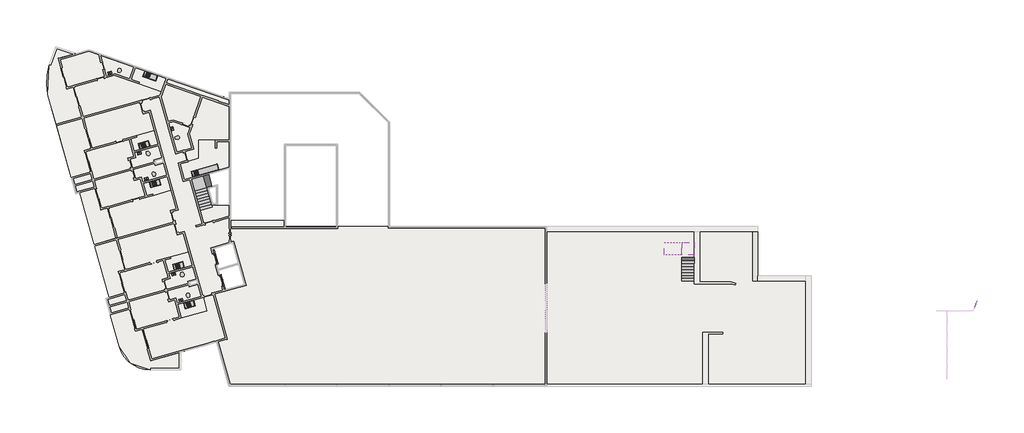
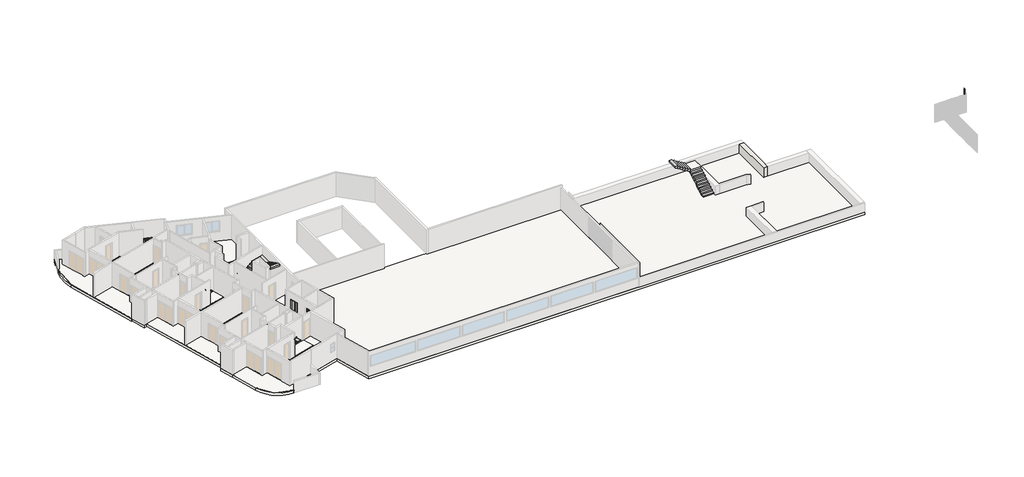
# One storey, part 9 of 9: 19 slabs, 18 flow terminals, 8 members, 8 proxies, 3 stair flights, 1 wall.
"""IFC4 building model written with IfcOpenShell, lengths in millimetres."""

from ifc_helpers import new_model, si_unit, point, frame, frame_2d, origin, place, context, project, spatial, polyline, circle_curve, trimmed, segment, composite_curve, outline, extrude, faceted_brep, transform, mapped, element, save
from components import specialty_equipment_6c35da8b, specialty_equipment_77dfa124, rf_bancada_cozinha_rf_bancada_cozinha_340fef9f, rf_bancada_cozinha_rf_bancada_cozinha_cfb88ba1, rf_bancada_cozinha_rf_bancada_cozinha_2f873929, rf_bancada_cozinha_rf_bancada_cozinha_798ceddf, flow_terminal_cab7bae2, flow_terminal_3fb7dc42, flow_terminal_e42b9071, flow_terminal_c6e042c4, ap_01_creme_cr37_13e02e03, ap_01_creme_cr37_5ce6e54d, montante_retangular_30mm_quadrado_54fe6a28, montante_retangular_30mm_quadrado_caeeb86b

model = new_model("IFC4")

# Units and contexts
model_context = context("Model", 3, world=origin())
ifc_project = project(units=[si_unit("LENGTHUNIT", "METRE", prefix="MILLI")], contexts=[model_context])

# Site, building, storey
site = spatial("IfcSite", under=ifc_project)
building = spatial("IfcBuilding", under=site)
storey = spatial("IfcBuildingStorey", under=building, Name="Garagem 1", Elevation=47850.0)

# Proxies
placement = place(None, origin())
specialty_equipment_shape = specialty_equipment_6c35da8b(model_context)
element("IfcBuildingElementProxy", 1, Name="Porta do elevador : Porta do elevador", ObjectType="Porta do elevador : Porta do elevador", at=placement, inside=storey, context=model_context, shape_type="MappedRepresentation", body=[
    mapped(specialty_equipment_shape, transform((-76594.4337486, 15747.4543727, 47850.0), x_axis=(0.27176796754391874, -0.9623628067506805, 0.0), y_axis=(0.9623628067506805, 0.27176796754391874, 0.0), z_axis=(0.0, 0.0, 1.0))),
])
specialty_equipment_2_shape = specialty_equipment_77dfa124(model_context)
element("IfcBuildingElementProxy", 2, Name="Porta do elevador : Porta do elevador", ObjectType="Porta do elevador : Porta do elevador", at=placement, inside=storey, context=model_context, shape_type="MappedRepresentation", body=[
    mapped(specialty_equipment_2_shape, transform((-75942.1906265, 13437.7836365, 47850.0), x_axis=(-0.27176796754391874, 0.9623628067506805, 0.0), y_axis=(-0.9623628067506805, -0.27176796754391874, 0.0), z_axis=(0.0, 0.0, 1.0))),
])
rf_bancada_cozinha_rf_bancada_cozinha_shape = rf_bancada_cozinha_rf_bancada_cozinha_340fef9f(model_context)
element("IfcBuildingElementProxy", 3, Name="RF_Bancada Cozinha : RF_Bancada Cozinha", ObjectType="RF_Bancada Cozinha : RF_Bancada Cozinha", at=placement, inside=storey, context=model_context, shape_type="MappedRepresentation", body=[
    mapped(rf_bancada_cozinha_rf_bancada_cozinha_shape, transform((-82760.548019, 26451.5820971, 48600.0), x_axis=(-0.9623628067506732, -0.27176796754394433, 0.0), y_axis=(0.27176796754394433, -0.9623628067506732, 0.0), z_axis=(0.0, 0.0, 1.0))),
])
element("IfcBuildingElementProxy", 4, Name="RF_Bancada Cozinha : RF_Bancada Cozinha", ObjectType="RF_Bancada Cozinha : RF_Bancada Cozinha", at=placement, inside=storey, context=model_context, shape_type="MappedRepresentation", body=[
    mapped(rf_bancada_cozinha_rf_bancada_cozinha_shape, transform((-79472.1556117, 14806.9921354, 48600.0), x_axis=(-0.9623628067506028, -0.2717679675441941, 0.0), y_axis=(0.2717679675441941, -0.9623628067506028, 0.0), z_axis=(0.0, 0.0, 1.0))),
])
rf_bancada_cozinha_rf_bancada_cozinha_2_shape = rf_bancada_cozinha_rf_bancada_cozinha_cfb88ba1(model_context)
element("IfcBuildingElementProxy", 5, Name="RF_Bancada Cozinha : RF_Bancada Cozinha", ObjectType="RF_Bancada Cozinha : RF_Bancada Cozinha", at=placement, inside=storey, context=model_context, shape_type="MappedRepresentation", body=[
    mapped(rf_bancada_cozinha_rf_bancada_cozinha_2_shape, transform((-81877.3021245, 23323.9029751, 48600.0), x_axis=(-0.9623628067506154, -0.27176796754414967, 0.0), y_axis=(0.27176796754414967, -0.9623628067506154, 0.0), z_axis=(0.0, 0.0, 1.0))),
])
element("IfcBuildingElementProxy", 6, Name="RF_Bancada Cozinha : RF_Bancada Cozinha", ObjectType="RF_Bancada Cozinha : RF_Bancada Cozinha", at=placement, inside=storey, context=model_context, shape_type="MappedRepresentation", body=[
    mapped(rf_bancada_cozinha_rf_bancada_cozinha_2_shape, transform((-78588.9097172, 11679.3130134, 48600.0), x_axis=(-0.9623628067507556, -0.27176796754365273, 0.0), y_axis=(0.27176796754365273, -0.9623628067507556, 0.0), z_axis=(0.0, 0.0, 1.0))),
])
rf_bancada_cozinha_rf_bancada_cozinha_3_shape = rf_bancada_cozinha_rf_bancada_cozinha_2f873929(model_context)
element("IfcBuildingElementProxy", 7, Name="RF_Bancada Cozinha : RF_Bancada Cozinha", ObjectType="RF_Bancada Cozinha : RF_Bancada Cozinha", at=placement, inside=storey, context=model_context, shape_type="MappedRepresentation", body=[
    mapped(rf_bancada_cozinha_rf_bancada_cozinha_3_shape, transform((-82030.0326121, 33293.9830661, 48600.0), x_axis=(-0.9449109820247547, 0.32732741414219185, 0.0), y_axis=(-0.32732741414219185, -0.9449109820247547, 0.0), z_axis=(0.0, 0.0, 1.0))),
])
rf_bancada_cozinha_rf_bancada_cozinha_4_shape = rf_bancada_cozinha_rf_bancada_cozinha_798ceddf(model_context)
element("IfcBuildingElementProxy", 8, Name="RF_Bancada Cozinha : RF_Bancada Cozinha", ObjectType="RF_Bancada Cozinha : RF_Bancada Cozinha", at=placement, inside=storey, context=model_context, shape_type="MappedRepresentation", body=[
    mapped(rf_bancada_cozinha_rf_bancada_cozinha_4_shape, transform((-76157.6622331, 24197.9763092, 48600.0), x_axis=(-0.9623628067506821, -0.27176796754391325, 0.0), y_axis=(0.27176796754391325, -0.9623628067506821, 0.0), z_axis=(0.0, 0.0, 1.0))),
])

# Flow terminals
flow_terminal_shape = flow_terminal_cab7bae2(model_context)
element("IfcFlowTerminal", 9, ObjectType="RF_Pias : Pia da Bancada", at=placement, inside=storey, context=model_context, shape_type="MappedRepresentation", body=[
    mapped(flow_terminal_shape, transform((-83380.5102831, 26570.4992214, 47702.9), x_axis=(-0.9623628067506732, -0.27176796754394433, 0.0), y_axis=(0.27176796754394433, -0.9623628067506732, 0.0), z_axis=(0.0, 0.0, 1.0))),
])
element("IfcFlowTerminal", 10, ObjectType="RF_Pias : Pia da Bancada", at=placement, inside=storey, context=model_context, shape_type="MappedRepresentation", body=[
    mapped(flow_terminal_shape, transform((-80092.1178758, 14925.9092597, 47702.9), x_axis=(-0.9623628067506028, -0.2717679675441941, 0.0), y_axis=(0.2717679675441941, -0.9623628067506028, 0.0), z_axis=(0.0, 0.0, 1.0))),
])
element("IfcFlowTerminal", 11, ObjectType="RF_Pias : Pia da Bancada", at=placement, inside=storey, context=model_context, shape_type="MappedRepresentation", body=[
    mapped(flow_terminal_shape, transform((-78306.8185143, 23885.0542694, 47702.9), x_axis=(-0.9623628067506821, -0.27176796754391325, 0.0), y_axis=(0.27176796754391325, -0.9623628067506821, 0.0), z_axis=(0.0, 0.0, 1.0))),
])
flow_terminal_2_shape = flow_terminal_3fb7dc42(model_context)
element("IfcFlowTerminal", 12, ObjectType="Deca_Cuba de Apoio Retangular_L7300 : L.7300.17_Branco Gelo GE17", at=placement, inside=storey, context=model_context, shape_type="MappedRepresentation", body=[
    mapped(flow_terminal_2_shape, transform((-83090.0822283, 23308.7374016, 48600.0), x_axis=(-0.9623628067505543, -0.2717679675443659, 0.0), y_axis=(0.2717679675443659, -0.9623628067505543, 0.0), z_axis=(0.0, 0.0, 1.0))),
])
element("IfcFlowTerminal", 13, ObjectType="Deca_Cuba de Apoio Retangular_L7300 : L.7300.17_Branco Gelo GE17", at=placement, inside=storey, context=model_context, shape_type="MappedRepresentation", body=[
    mapped(flow_terminal_2_shape, transform((-79801.689821, 11664.1474399, 48600.0), x_axis=(-0.9623628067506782, -0.2717679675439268, 0.0), y_axis=(0.2717679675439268, -0.9623628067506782, 0.0), z_axis=(0.0, 0.0, 1.0))),
])
element("IfcFlowTerminal", 14, ObjectType="Deca_Cuba de Apoio Retangular_L7300 : L.7300.17_Branco Gelo GE17", at=placement, inside=storey, context=model_context, shape_type="MappedRepresentation", body=[
    mapped(flow_terminal_2_shape, transform((-80677.0991462, 28154.8020678, 48600.0), x_axis=(-0.2717679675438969, 0.9623628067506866, 0.0), y_axis=(-0.9623628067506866, -0.2717679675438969, 0.0), z_axis=(0.0, 0.0, 1.0))),
])
element("IfcFlowTerminal", 15, ObjectType="Deca_Cuba de Apoio Retangular_L7300 : L.7300.17_Branco Gelo GE17", at=placement, inside=storey, context=model_context, shape_type="MappedRepresentation", body=[
    mapped(flow_terminal_2_shape, transform((-86597.4204814, 33488.7004496, 48600.0), x_axis=(-0.9623628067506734, -0.27176796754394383, 0.0), y_axis=(0.27176796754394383, -0.9623628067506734, 0.0), z_axis=(0.0, 0.0, 1.0))),
])
flow_terminal_3_shape = flow_terminal_e42b9071(model_context)
element("IfcFlowTerminal", 16, ObjectType="Deca_Cuba de Apoio Retangular_L7300 : L.7300.17_Branco Gelo GE17", at=placement, inside=storey, context=model_context, shape_type="MappedRepresentation", body=[
    mapped(flow_terminal_3_shape, transform((-83802.1143033, 25830.1279553, 48600.0), x_axis=(-0.9623628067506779, -0.2717679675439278, 0.0), y_axis=(0.2717679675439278, -0.9623628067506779, 0.0), z_axis=(0.0, 0.0, 1.0))),
])
element("IfcFlowTerminal", 17, ObjectType="Deca_Cuba de Apoio Retangular_L7300 : L.7300.17_Branco Gelo GE17", at=placement, inside=storey, context=model_context, shape_type="MappedRepresentation", body=[
    mapped(flow_terminal_3_shape, transform((-80513.721896, 14185.5379936, 48600.0), x_axis=(-0.962362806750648, -0.27176796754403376, 0.0), y_axis=(0.27176796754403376, -0.962362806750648, 0.0), z_axis=(0.0, 0.0, 1.0))),
])
flow_terminal_4_shape = flow_terminal_c6e042c4(model_context)
element("IfcFlowTerminal", 18, ObjectType="RF_Pias : Pia da Bancada", at=placement, inside=storey, context=model_context, shape_type="MappedRepresentation", body=[
    mapped(flow_terminal_4_shape, transform((-82343.483233, 22898.2626745, 47702.9), x_axis=(-0.9623628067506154, -0.27176796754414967, 0.0), y_axis=(0.27176796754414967, -0.9623628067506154, 0.0), z_axis=(0.0, 0.0, 1.0))),
])
element("IfcFlowTerminal", 19, ObjectType="RF_Pias : Pia da Bancada", at=placement, inside=storey, context=model_context, shape_type="MappedRepresentation", body=[
    mapped(flow_terminal_4_shape, transform((-79055.0908257, 11253.6727129, 47702.9), x_axis=(-0.9623628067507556, -0.27176796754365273, 0.0), y_axis=(0.27176796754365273, -0.9623628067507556, 0.0), z_axis=(0.0, 0.0, 1.0))),
])
element("IfcFlowTerminal", 20, ObjectType="RF_Pias : Pia da Bancada", at=placement, inside=storey, context=model_context, shape_type="MappedRepresentation", body=[
    mapped(flow_terminal_4_shape, transform((-82939.3392028, 33309.5545572, 47702.9), x_axis=(-0.9449109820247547, 0.32732741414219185, 0.0), y_axis=(-0.32732741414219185, -0.9449109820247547, 0.0), z_axis=(0.0, 0.0, 1.0))),
])
ap_01_creme_cr37_shape = ap_01_creme_cr37_13e02e03(model_context)
element("IfcFlowTerminal", 21, ObjectType="Deca_Shared_Assento_P.900 : AP.01_Creme CR37", at=placement, inside=storey, context=model_context, shape_type="MappedRepresentation", body=[
    mapped(ap_01_creme_cr37_shape, transform((-83017.5301151, 25983.4740486, 48237.8723674), x_axis=(0.9623628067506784, 0.2717679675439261, 0.0), y_axis=(0.0, 0.0, 1.0), z_axis=(0.2717679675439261, -0.9623628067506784, 0.0))),
])
element("IfcFlowTerminal", 22, ObjectType="Deca_Shared_Assento_P.900 : AP.01_Creme CR37", at=placement, inside=storey, context=model_context, shape_type="MappedRepresentation", body=[
    mapped(ap_01_creme_cr37_shape, transform((-79729.1377078, 14338.8840869, 48237.8723674), x_axis=(0.962362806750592, 0.2717679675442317, 0.0), y_axis=(0.0, 0.0, 1.0), z_axis=(0.2717679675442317, -0.962362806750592, 0.0))),
])
element("IfcFlowTerminal", 23, ObjectType="Deca_Shared_Assento_P.900 : AP.01_Creme CR37", at=placement, inside=storey, context=model_context, shape_type="MappedRepresentation", body=[
    mapped(ap_01_creme_cr37_shape, transform((-80349.5164684, 27236.3600819, 48237.8723674), x_axis=(-0.271767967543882, 0.9623628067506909, 0.0), y_axis=(0.0, 0.0, 1.0), z_axis=(0.9623628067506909, 0.271767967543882, 0.0))),
])
element("IfcFlowTerminal", 24, ObjectType="Deca_Shared_Assento_P.900 : AP.01_Creme CR37", at=placement, inside=storey, context=model_context, shape_type="MappedRepresentation", body=[
    mapped(ap_01_creme_cr37_shape, transform((-85777.8760768, 33566.4131555, 48237.8723674), x_axis=(-0.9449109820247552, 0.3273274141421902, 0.0), y_axis=(0.0, 0.0, 1.0000000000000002), z_axis=(0.3273274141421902, 0.9449109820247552, 0.0))),
])
ap_01_creme_cr37_2_shape = ap_01_creme_cr37_5ce6e54d(model_context)
element("IfcFlowTerminal", 25, ObjectType="Deca_Shared_Assento_P.900 : AP.01_Creme CR37", at=placement, inside=storey, context=model_context, shape_type="MappedRepresentation", body=[
    mapped(ap_01_creme_cr37_2_shape, transform((-82341.1813229, 23588.4422577, 48237.8723674), x_axis=(0.9623628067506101, 0.27176796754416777, 0.0), y_axis=(0.0, 0.0, -1.0), z_axis=(-0.27176796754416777, 0.9623628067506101, 0.0))),
])
element("IfcFlowTerminal", 26, ObjectType="Deca_Shared_Assento_P.900 : AP.01_Creme CR37", at=placement, inside=storey, context=model_context, shape_type="MappedRepresentation", body=[
    mapped(ap_01_creme_cr37_2_shape, transform((-79052.7889156, 11943.852296, 48237.8723674), x_axis=(0.9623628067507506, 0.2717679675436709, 0.0), y_axis=(0.0, 0.0, -1.0000000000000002), z_axis=(-0.2717679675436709, 0.9623628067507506, 0.0))),
])

# Members
montante_retangular_30mm_quadrado_shape = montante_retangular_30mm_quadrado_54fe6a28(model_context)
element("IfcMember", 27, ObjectType="Montante retangular : 30mm Quadrado", at=placement, inside=storey, context=model_context, shape_type="MappedRepresentation", body=[
    mapped(montante_retangular_30mm_quadrado_shape, transform((-3369.0274651, 11521.087895, 50000.0), x_axis=(-0.33339028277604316, -0.942788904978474, 0.0), y_axis=(-0.942788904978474, 0.33339028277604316, 0.0), z_axis=(0.0, 0.0, -1.0))),
])
element("IfcMember", 28, ObjectType="Montante retangular : 30mm Quadrado", at=placement, inside=storey, context=model_context, shape_type="MappedRepresentation", body=[
    mapped(montante_retangular_30mm_quadrado_shape, transform((-3431.8820215, 11343.3425272, 50000.0), x_axis=(-0.33339028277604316, -0.942788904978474, 0.0), y_axis=(-0.942788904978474, 0.33339028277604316, 0.0), z_axis=(0.0, 0.0, -1.0))),
])
element("IfcMember", 29, ObjectType="Montante retangular : 30mm Quadrado", at=placement, inside=storey, context=model_context, shape_type="MappedRepresentation", body=[
    mapped(montante_retangular_30mm_quadrado_shape, transform((-3494.736578, 11165.5971594, 50000.0), x_axis=(-0.33339028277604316, -0.942788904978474, 0.0), y_axis=(-0.942788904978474, 0.33339028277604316, 0.0), z_axis=(0.0, 0.0, -1.0))),
])
element("IfcMember", 30, ObjectType="Montante retangular : 30mm Quadrado", at=placement, inside=storey, context=model_context, shape_type="MappedRepresentation", body=[
    mapped(montante_retangular_30mm_quadrado_shape, transform((-3369.0274651, 11521.087895, 51050.0), x_axis=(-0.33339028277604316, -0.942788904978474, 0.0), y_axis=(-0.942788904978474, 0.33339028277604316, 0.0), z_axis=(0.0, 0.0, -1.0))),
])
element("IfcMember", 31, ObjectType="Montante retangular : 30mm Quadrado", at=placement, inside=storey, context=model_context, shape_type="MappedRepresentation", body=[
    mapped(montante_retangular_30mm_quadrado_shape, transform((-3431.8820215, 11343.3425272, 51050.0), x_axis=(-0.33339028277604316, -0.942788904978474, 0.0), y_axis=(-0.942788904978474, 0.33339028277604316, 0.0), z_axis=(0.0, 0.0, -1.0))),
])
element("IfcMember", 32, ObjectType="Montante retangular : 30mm Quadrado", at=placement, inside=storey, context=model_context, shape_type="MappedRepresentation", body=[
    mapped(montante_retangular_30mm_quadrado_shape, transform((-3494.736578, 11165.5971594, 51050.0), x_axis=(-0.33339028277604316, -0.942788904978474, 0.0), y_axis=(-0.942788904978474, 0.33339028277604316, 0.0), z_axis=(0.0, 0.0, -1.0))),
])
montante_retangular_30mm_quadrado_2_shape = montante_retangular_30mm_quadrado_caeeb86b(model_context)
element("IfcMember", 33, ObjectType="Montante retangular : 30mm Quadrado", at=placement, inside=storey, context=model_context, shape_type="MappedRepresentation", body=[
    mapped(montante_retangular_30mm_quadrado_2_shape, transform((-3489.7357237, 11179.738993, 51050.0), x_axis=(0.0, 0.0, 1.0), y_axis=(-0.9427889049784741, 0.33339028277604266, 0.0), z_axis=(-0.33339028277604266, -0.9427889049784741, 0.0))),
])
element("IfcMember", 34, ObjectType="Montante retangular : 30mm Quadrado", at=placement, inside=storey, context=model_context, shape_type="MappedRepresentation", body=[
    mapped(montante_retangular_30mm_quadrado_2_shape, transform((-3552.5902802, 11001.9936251, 51050.0), x_axis=(0.0, 0.0, 1.0), y_axis=(-0.9427889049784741, 0.33339028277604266, 0.0), z_axis=(-0.33339028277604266, -0.9427889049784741, 0.0))),
])

# Slabs
element("IfcSlab", 35, ObjectType="TZ_Piso de Áreas Molhadas", at=placement, inside=storey, context=model_context, shape_type="SweptSolid", body=[
    extrude(outline(composite_curve([segment(polyline([(-90765.4571774, 31984.341749), (-90143.7425806, 32159.9118263), (-89328.438678, 29272.823406), (-91766.0080564, 28584.4621444), (-92573.2320087, 31442.9384962)]), True, "CONTINUOUS"), segment(trimmed(circle_curve(frame_2d((-87414.5556743, 32622.5665107)), 5291.829908), [point((-92573.2320087, 31442.9384962))], [point((-92422.0860726, 34333.7366032))], False, "CARTESIAN"), True, "CONTINUOUS"), segment(polyline([(-92422.0860726, 34333.7366032), (-92280.2794148, 34284.6132387), (-91729.7010481, 35873.9929322), (-90151.0501028, 35327.1311202), (-91594.3494784, 34919.5483093), (-90765.4571774, 31984.341749)]), True, "CONTINUOUS")], self_intersect=False)), frame((0.0, 0.0, 47850.0), z_axis=(0.0, 0.0, 1.0), x_axis=(1.0, 0.0, 0.0)), (0.0, 0.0, 1.0), 20.0),
])
element("IfcSlab", 36, ObjectType="TZ_Piso de Áreas Molhadas", at=placement, inside=storey, context=model_context, shape_type="SweptSolid", body=[
    extrude(outline(polyline([(-88472.3695802, 26241.3805647), (-89094.084177, 26065.8104874), (-88509.7830468, 23996.7304529), (-90325.6378284, 23483.9392686), (-91725.2428613, 28440.1077234), (-89287.6734828, 29128.468985), (-88472.3695802, 26241.3805647)])), frame((0.0, 0.0, 47850.0), z_axis=(0.0, 0.0, 1.0), x_axis=(1.0, 0.0, 0.0)), (0.0, 0.0, 1.0), 20.0),
])
element("IfcSlab", 37, ObjectType="TZ_Piso de Áreas Molhadas", at=placement, inside=storey, context=model_context, shape_type="SweptSolid", body=[
    extrude(outline(polyline([(-86855.3501733, 20515.3218645), (-86040.0462707, 17628.2334443), (-88109.1263052, 17043.9323141), (-89508.731338, 22000.1007688), (-88061.3659003, 22408.8318218), (-87477.0647701, 20339.7517872), (-86855.3501733, 20515.3218645)])), frame((0.0, 0.0, 47850.0), z_axis=(0.0, 0.0, 1.0), x_axis=(1.0, 0.0, 0.0)), (0.0, 0.0, 1.0), 20.0),
])
element("IfcSlab", 38, ObjectType="TZ_Piso de Áreas Molhadas", at=placement, inside=storey, context=model_context, shape_type="SweptSolid", body=[
    extrude(outline(polyline([(-78926.5637691, 28284.9851582), (-79146.9727346, 27648.7205404), (-78771.1333302, 26317.8283554), (-80214.6775403, 25910.176404), (-81004.3851492, 28706.6252933), (-80530.2499593, 28840.5194505), (-78926.5637691, 28284.9851582)])), frame((0.0, 0.0, 47850.0), z_axis=(0.0, 0.0, 1.0), x_axis=(1.0, 0.0, 0.0)), (0.0, 0.0, 1.0), 20.0),
])
element("IfcSlab", 39, ObjectType="TZ_Piso de Áreas Molhadas", at=placement, inside=storey, context=model_context, shape_type="SweptSolid", body=[
    extrude(outline(polyline([(-78070.9150345, 27060.8243598), (-76493.6479314, 27060.8243598), (-76493.6479314, 26310.8243598), (-76343.6479314, 26310.8243598), (-76343.6479314, 26910.8243598), (-75147.8282189, 26910.8243598), (-75147.8282189, 24483.4871675), (-79467.3156296, 23263.6786855), (-79888.5559793, 24755.3410359), (-79127.7601479, 24970.1871785), (-79141.3485461, 25018.3053183), (-78070.9150345, 25320.5920836), (-78070.9150345, 27060.8243598)])), frame((0.0, 0.0, 47850.0), z_axis=(0.0, 0.0, 1.0), x_axis=(1.0, 0.0, 0.0)), (0.0, 0.0, 1.0), 20.0),
])
element("IfcSlab", 40, ObjectType="TZ_Piso de Áreas Molhadas", at=placement, inside=storey, context=model_context, shape_type="SweptSolid", body=[
    extrude(outline(polyline([(-84719.4810559, 32955.6762822), (-86137.8721095, 33447.0223292), (-86956.7711455, 33215.7680402), (-87515.4733556, 35194.1992432), (-84326.6881589, 34089.5694606), (-84719.4810559, 32955.6762822)])), frame((0.0, 0.0, 47850.0), z_axis=(0.0, 0.0, 1.0), x_axis=(1.0, 0.0, 0.0)), (0.0, 0.0, 1.0), 20.0),
])
element("IfcSlab", 41, ObjectType="TZ_Piso de Áreas Molhadas", at=placement, inside=storey, context=model_context, shape_type="SweptSolid", body=[
    extrude(outline(polyline([(-84577.7444086, 32906.57717), (-84184.9515116, 34040.4703485), (-81226.8582774, 33015.7547641), (-81668.7502865, 31740.1249383), (-83870.9147351, 32502.9785914), (-83821.815623, 32644.7152387), (-84577.7444086, 32906.57717)])), frame((0.0, 0.0, 47850.0), z_axis=(0.0, 0.0, 1.0), x_axis=(1.0, 0.0, 0.0)), (0.0, 0.0, 1.0), 20.0),
])
element("IfcSlab", 42, ObjectType="TZ_Piso de Áreas Molhadas", at=placement, inside=storey, context=model_context, shape_type="SweptSolid", body=[
    extrude(outline(polyline([(-81949.8925784, 26524.6420501), (-81623.7710174, 25369.806682), (-82432.1557751, 25141.5215893), (-82377.8021816, 24949.0490279), (-84456.5058441, 24362.030218), (-84701.0970149, 25228.1567441), (-84123.6793309, 25391.2175246), (-84259.5633146, 25872.398928), (-81949.8925784, 26524.6420501)])), frame((0.0, 0.0, 47850.0), z_axis=(0.0, 0.0, 1.0), x_axis=(1.0, 0.0, 0.0)), (0.0, 0.0, 1.0), 20.0),
])
element("IfcSlab", 43, ObjectType="TZ_Piso de Áreas Molhadas", at=placement, inside=storey, context=model_context, shape_type="SweptSolid", body=[
    extrude(outline(polyline([(-84089.7975819, 27479.0039186), (-82357.5445298, 27968.1862602), (-81990.6577736, 26668.9964711), (-84300.3285098, 26016.753349), (-84626.4500708, 27171.5887171), (-84049.0323868, 27334.6494976), (-84089.7975819, 27479.0039186)])), frame((0.0, 0.0, 47850.0), z_axis=(0.0, 0.0, 1.0), x_axis=(1.0, 0.0, 0.0)), (0.0, 0.0, 1.0), 20.0),
])
element("IfcSlab", 44, ObjectType="TZ_Piso de Áreas Molhadas", at=placement, inside=storey, context=model_context, shape_type="SweptSolid", body=[
    extrude(outline(polyline([(-84171.1494782, 23351.5492709), (-84415.740649, 24217.675797), (-82337.0369864, 24804.6946069), (-82282.6833929, 24612.2220455), (-81474.2986352, 24840.5071383), (-81148.1770742, 23685.6717702), (-83457.8478104, 23033.4286481), (-83593.7317942, 23514.6100514), (-84171.1494782, 23351.5492709)])), frame((0.0, 0.0, 47850.0), z_axis=(0.0, 0.0, 1.0), x_axis=(1.0, 0.0, 0.0)), (0.0, 0.0, 1.0), 20.0),
])
element("IfcSlab", 45, ObjectType="TZ_Piso de Áreas Molhadas", at=placement, inside=storey, context=model_context, shape_type="SweptSolid", body=[
    extrude(outline(composite_curve([segment(polyline([(-79945.4990038, 5119.4122055), (-82713.5540687, 5119.4122055), (-82713.5540687, 4969.4122055), (-82751.3896972, 4969.4122055)]), True, "CONTINUOUS"), segment(trimmed(circle_curve(frame_2d((-82751.3896972, 8069.4122055)), 3100.0), [point((-82751.3896972, 4969.4122055))], [point((-85734.7143981, 7226.9315061))], False, "CARTESIAN"), True, "CONTINUOUS"), segment(polyline([(-85734.7143981, 7226.9315061), (-86588.8282733, 10251.4506708), (-84772.9735093, 10764.2419177), (-84188.6722855, 8695.1618243), (-83566.957766, 8870.7319029), (-82710.8885369, 5839.2889958), (-79945.4990038, 6620.2256515), (-79945.4990038, 5119.4122055)]), True, "CONTINUOUS")], self_intersect=False)), frame((0.0, 0.0, 47850.0), z_axis=(0.0, 0.0, 1.0), x_axis=(1.0, 0.0, 0.0)), (0.0, 0.0, 1.0), 20.0),
])
element("IfcSlab", 46, ObjectType="TZ_Piso de Áreas Molhadas", at=placement, inside=storey, context=model_context, shape_type="SweptSolid", body=[
    extrude(outline(polyline([(-78185.906228, 13195.9171766), (-77859.7846669, 12041.0818085), (-80169.4554031, 11388.8386864), (-80305.3393869, 11870.0200898), (-80882.7570709, 11706.9593092), (-81127.3482417, 12573.0858353), (-79048.6445791, 13160.1046452), (-78994.2909856, 12967.6320839), (-78185.906228, 13195.9171766)])), frame((0.0, 0.0, 47850.0), z_axis=(0.0, 0.0, 1.0), x_axis=(1.0, 0.0, 0.0)), (0.0, 0.0, 1.0), 20.0),
])
element("IfcSlab", 47, ObjectType="TZ_Piso de Áreas Molhadas", at=placement, inside=storey, context=model_context, shape_type="SweptSolid", body=[
    extrude(outline(polyline([(-77307.7782946, 10638.3027935), (-79761.8034518, 9945.2944763), (-80128.690208, 11244.4842654), (-77674.6650508, 11937.4925826), (-77307.7782946, 10638.3027935)])), frame((0.0, 0.0, 47850.0), z_axis=(0.0, 0.0, 1.0), x_axis=(1.0, 0.0, 0.0)), (0.0, 0.0, 1.0), 20.0),
])
element("IfcSlab", 48, ObjectType="TZ_Piso de Áreas Molhadas", at=placement, inside=storey, context=model_context, shape_type="SweptSolid", body=[
    extrude(outline(polyline([(-81107.9410005, 23543.1910314), (-80740.5251229, 22242.1275601), (-82472.778175, 21752.9452185), (-82513.5433702, 21897.2996395), (-83090.9610542, 21734.238859), (-83418.0192411, 22888.8089065), (-81107.9410005, 23543.1910314)])), frame((0.0, 0.0, 47850.0), z_axis=(0.0, 0.0, 1.0), x_axis=(1.0, 0.0, 0.0)), (0.0, 0.0, 1.0), 20.0),
])
element("IfcSlab", 49, ObjectType="TZ_Piso de Áreas Molhadas", at=placement, inside=storey, context=model_context, shape_type="SweptSolid", body=[
    extrude(outline(polyline([(-85183.9771729, 14596.790603), (-85805.6917697, 14421.2205257), (-85221.3906395, 12352.1404912), (-86668.7560772, 11943.4094383), (-88068.36111, 16899.5778931), (-85999.2810755, 17483.8790233), (-85183.9771729, 14596.790603)])), frame((0.0, 0.0, 47850.0), z_axis=(0.0, 0.0, 1.0), x_axis=(1.0, 0.0, 0.0)), (0.0, 0.0, 1.0), 20.0),
])
element("IfcSlab", 50, ObjectType="TZ_Piso de Áreas Molhadas", at=placement, inside=storey, context=model_context, shape_type="SweptSolid", body=[
    extrude(outline(polyline([(-81412.7046076, 13583.5667824), (-80835.2869236, 13746.6275629), (-80971.1709074, 14227.8089663), (-78661.5001712, 14880.0520884), (-78335.3786101, 13725.2167203), (-79143.7633678, 13496.9316276), (-79089.4097743, 13304.4590662), (-81168.1134368, 12717.4402563), (-81412.7046076, 13583.5667824)])), frame((0.0, 0.0, 47850.0), z_axis=(0.0, 0.0, 1.0), x_axis=(1.0, 0.0, 0.0)), (0.0, 0.0, 1.0), 20.0),
])
element("IfcSlab", 51, ObjectType="TZ_Piso de Áreas Molhadas", at=placement, inside=storey, context=model_context, shape_type="SweptSolid", body=[
    extrude(outline(polyline([(-78701.7362448, 15022.5328272), (-81012.8731576, 14371.8995868), (-81338.0576635, 15526.9987554), (-80760.6399795, 15690.059536), (-80801.4051746, 15834.413957), (-79069.1521225, 16323.5962985), (-78701.7362448, 15022.5328272)])), frame((0.0, 0.0, 47850.0), z_axis=(0.0, 0.0, 1.0), x_axis=(1.0, 0.0, 0.0)), (0.0, 0.0, 1.0), 20.0),
])
element("IfcSlab", 52, ObjectType="Espessura de 300 mm", at=placement, inside=storey, context=model_context, shape_type="Brep", body=[
    faceted_brep([(-31675.8701557, 16029.7640731, 49555.8823529), (-30475.8701557, 16029.7640731, 49555.8823529), (-30475.8701557, 16105.6519204, 49555.8823529), (-30475.8701557, 17229.7640731, 49555.8823529), (-31471.7580031, 17229.7640731, 49555.8823529), (-31675.8701557, 17229.7640731, 49555.8823529), (-31675.8701557, 17229.7640731, 49380.2363955), (-31675.8701557, 16105.6519204, 49380.2363955), (-31675.8701557, 16105.6519204, 49255.8823529), (-31675.8701557, 16029.7640731, 49209.6481602), (-31675.8701557, 16029.7640731, 49380.2363955), (-31675.8701557, 16029.7640731, 49385.2941176), (-30475.8701557, 16029.7640731, 49385.2941176), (-30475.8701557, 16029.7640731, 49209.6481602), (-30475.8701557, 16105.6519204, 49255.8823529), (-30475.8701557, 17229.7640731, 49255.8823529), (-31471.7580031, 16105.6519204, 49255.8823529), (-31471.7580031, 17229.7640731, 49255.8823529)], [[[0, 1, 2, 3, 4, 5]], [[0, 5, 6, 7, 8, 9, 10, 11]], [[1, 12, 13, 14, 15, 3, 2]], [[14, 16, 17, 15]], [[8, 16, 14, 13, 9]], [[16, 8, 7]], [[17, 16, 7, 6]], [[1, 0, 11, 10, 9, 13, 12]], [[3, 15, 17, 6, 5, 4]]]),
])
element("IfcSlab", 53, ObjectType="TZ_Laje 30cm", at=placement, inside=storey, context=model_context, shape_type="SweptSolid", body=[
    extrude(outline(composite_curve([segment(polyline([(-82713.5540687, 4969.4122055), (-82751.3896972, 4969.4122055)]), True, "CONTINUOUS"), segment(trimmed(circle_curve(frame_2d((-82751.3896972, 8069.4122055)), 3100.0), [point((-82751.3896972, 4969.4122055))], [point((-85734.7143981, 7226.9315061))], False, "CARTESIAN"), True, "CONTINUOUS"), segment(polyline([(-85734.7143981, 7226.9315061), (-86588.8282747, 10251.4506758), (-86574.3928326, 10255.5271953), (-87018.7334595, 11828.9903844), (-86664.6795577, 11928.9739962), (-89512.8078575, 22014.5362109), (-89866.8617594, 21914.5525991), (-90311.2023863, 23488.0157882), (-90325.6378284, 23483.9392686), (-92573.2320087, 31442.9384962)]), True, "CONTINUOUS"), segment(trimmed(circle_curve(frame_2d((-87414.5556743, 32622.5665107)), 5291.829908), [point((-92573.2320087, 31442.9384962))], [point((-92426.4466323, 34320.9224218))], False, "CARTESIAN"), True, "CONTINUOUS"), segment(polyline([(-92426.4466323, 34320.9224218), (-92422.0160621, 34333.7123509), (-92403.1178425, 34327.1658026), (-91809.986912, 36039.3839237), (-89899.2062586, 35377.468778), (-88658.6666899, 35727.7929124), (-75017.8282189, 31002.4584964), (-75017.8282189, 19352.5140353), (-69748.6137209, 19352.5140353), (-69748.6137209, 18732.5140353), (-24398.6137209, 18732.5140353), (-24398.6137209, 13982.5140353), (-19298.6137209, 13982.5140353), (-19298.6137209, 3431.0495751), (-75180.5270822, 3431.0495751), (-76371.9880656, 7650.1551103), (-79815.4990038, 6677.7193903), (-79815.4990038, 4989.4122055), (-82713.5540687, 4989.4122055), (-82713.5540687, 4969.4122055)]), True, "CONTINUOUS")], self_intersect=False), holes=[polyline([(-81583.0058223, 25225.452261), (-82247.0361589, 25037.9323634), (-82179.094167, 24797.3416617), (-81515.0638304, 24984.8615593), (-81583.0058223, 25225.452261)]), polyline([(-78294.613415, 13580.8622993), (-78958.6437516, 13393.3424017), (-78890.7017597, 13152.7517), (-78226.6714231, 13340.2715976), (-78294.613415, 13580.8622993)]), polyline([(-74840.4856705, 17153.3066079), (-76760.3994699, 16611.1295126), (-76221.8794944, 14704.1660107), (-75646.150803, 12665.442005), (-73726.2370035, 13207.6191002), (-74270.7319215, 15135.7405865), (-74840.4856705, 17153.3066079)]), polyline([(-77952.9130698, 20291.1915783), (-76801.2963825, 20616.4041949), (-76858.5413412, 20819.1154254), (-75147.8282189, 20819.1154254), (-75147.8282189, 24343.0530162), (-78807.9060206, 23309.4595541), (-77952.9130698, 20291.1915783)])]), frame((0.0, 0.0, 47550.0), z_axis=(0.0, 0.0, 1.0), x_axis=(1.0, 0.0, 0.0)), (0.0, 0.0, 1.0), 300.0),
])

# Stair flights
element("IfcStairFlight", 54, ObjectType="Profundidade de 150mm", at=placement, inside=storey, context=model_context, shape_type="Brep", body=[
    faceted_brep([(-31955.8701557, 16029.7640731, 49726.4705882), (-31675.8701557, 16029.7640731, 49726.4705882), (-31675.8701557, 17229.7640731, 49726.4705882), (-31955.8701557, 17229.7640731, 49726.4705882), (-31955.8701557, 16029.7640731, 49550.8246308), (-31675.8701557, 16029.7640731, 49380.2363955), (-31675.8701557, 16029.7640731, 49555.8823529), (-31675.8701557, 16105.6519204, 49380.2363955), (-31675.8701557, 17229.7640731, 49380.2363955), (-31675.8701557, 17229.7640731, 49555.8823529), (-31955.8701557, 17229.7640731, 49550.8246308), (-32235.8701557, 16029.7640731, 49897.0588235), (-31955.8701557, 16029.7640731, 49897.0588235), (-31955.8701557, 17229.7640731, 49897.0588235), (-32235.8701557, 17229.7640731, 49897.0588235), (-32235.8701557, 16029.7640731, 49721.4128661), (-32235.8701557, 17229.7640731, 49721.4128661), (-32515.8701557, 16029.7640731, 50067.6470588), (-32235.8701557, 16029.7640731, 50067.6470588), (-32235.8701557, 17229.7640731, 50067.6470588), (-32515.8701557, 17229.7640731, 50067.6470588), (-32515.8701557, 16029.7640731, 49892.0011014), (-32515.8701557, 17229.7640731, 49892.0011014), (-32795.8701557, 16029.7640731, 50238.2352941), (-32515.8701557, 16029.7640731, 50238.2352941), (-32515.8701557, 17229.7640731, 50238.2352941), (-32795.8701557, 17229.7640731, 50238.2352941), (-32795.8701557, 16029.7640731, 50062.5893367), (-32795.8701557, 17229.7640731, 50062.5893367), (-33075.8701557, 16029.7640731, 50408.8235294), (-32795.8701557, 16029.7640731, 50408.8235294), (-32795.8701557, 17229.7640731, 50408.8235294), (-33075.8701557, 17229.7640731, 50408.8235294), (-33075.8701557, 16029.7640731, 50233.177572), (-33075.8701557, 17229.7640731, 50233.177572), (-33355.8701557, 16029.7640731, 50579.4117647), (-33075.8701557, 16029.7640731, 50579.4117647), (-33075.8701557, 17229.7640731, 50579.4117647), (-33355.8701557, 17229.7640731, 50579.4117647), (-33355.8701557, 16029.7640731, 50403.7658073), (-33355.8701557, 17229.7640731, 50403.7658073)], [[[0, 1, 2, 3]], [[1, 0, 4, 5, 6]], [[2, 1, 6, 5, 7, 8, 9]], [[3, 2, 9, 8, 10]], [[11, 12, 13, 14]], [[12, 11, 15, 4, 0]], [[13, 12, 0, 3]], [[14, 13, 3, 10, 16]], [[17, 18, 19, 20]], [[18, 17, 21, 15, 11]], [[19, 18, 11, 14]], [[20, 19, 14, 16, 22]], [[23, 24, 25, 26]], [[24, 23, 27, 21, 17]], [[25, 24, 17, 20]], [[26, 25, 20, 22, 28]], [[29, 30, 31, 32]], [[30, 29, 33, 27, 23]], [[31, 30, 23, 26]], [[32, 31, 26, 28, 34]], [[35, 36, 37, 38]], [[36, 35, 39, 33, 29]], [[37, 36, 29, 32]], [[38, 37, 32, 34, 40]], [[35, 38, 40, 39]], [[5, 4, 15, 21, 27, 33, 39, 40, 34, 28, 22, 16, 10, 8, 7]]]),
])
element("IfcStairFlight", 55, ObjectType="Profundidade de 150mm", at=placement, inside=storey, context=model_context, shape_type="Brep", body=[
    faceted_brep([(-31675.8701557, 13789.7640731, 48020.5882353), (-31675.8701557, 13509.7640731, 48020.5882353), (-30475.8701557, 13509.7640731, 48020.5882353), (-30475.8701557, 13789.7640731, 48020.5882353), (-31675.8701557, 13789.7640731, 47850.0), (-31675.8701557, 13509.7640731, 47850.0), (-30475.8701557, 13509.7640731, 47850.0), (-30475.8701557, 13789.7640731, 47850.0), (-31675.8701557, 14069.7640731, 48191.1764706), (-31675.8701557, 13789.7640731, 48191.1764706), (-30475.8701557, 13789.7640731, 48191.1764706), (-30475.8701557, 14069.7640731, 48191.1764706), (-31675.8701557, 14069.7640731, 48015.5305131), (-31675.8701557, 13798.0657136, 47850.0), (-30475.8701557, 13798.0657136, 47850.0), (-30475.8701557, 14069.7640731, 48015.5305131), (-31675.8701557, 14349.7640731, 48361.7647059), (-31675.8701557, 14069.7640731, 48361.7647059), (-30475.8701557, 14069.7640731, 48361.7647059), (-30475.8701557, 14349.7640731, 48361.7647059), (-31675.8701557, 14349.7640731, 48186.1187484), (-30475.8701557, 14349.7640731, 48186.1187484), (-31675.8701557, 14629.7640731, 48532.3529412), (-31675.8701557, 14349.7640731, 48532.3529412), (-30475.8701557, 14349.7640731, 48532.3529412), (-30475.8701557, 14629.7640731, 48532.3529412), (-31675.8701557, 14629.7640731, 48356.7069837), (-30475.8701557, 14629.7640731, 48356.7069837), (-31675.8701557, 14909.7640731, 48702.9411765), (-31675.8701557, 14629.7640731, 48702.9411765), (-30475.8701557, 14629.7640731, 48702.9411765), (-30475.8701557, 14909.7640731, 48702.9411765), (-31675.8701557, 14909.7640731, 48527.295219), (-30475.8701557, 14909.7640731, 48527.295219), (-31675.8701557, 15189.7640731, 48873.5294118), (-31675.8701557, 14909.7640731, 48873.5294118), (-30475.8701557, 14909.7640731, 48873.5294118), (-30475.8701557, 15189.7640731, 48873.5294118), (-31675.8701557, 15189.7640731, 48697.8834543), (-30475.8701557, 15189.7640731, 48697.8834543), (-31675.8701557, 15469.7640731, 49044.1176471), (-31675.8701557, 15189.7640731, 49044.1176471), (-30475.8701557, 15189.7640731, 49044.1176471), (-30475.8701557, 15469.7640731, 49044.1176471), (-31675.8701557, 15469.7640731, 48868.4716896), (-30475.8701557, 15469.7640731, 48868.4716896), (-31675.8701557, 15749.7640731, 49214.7058824), (-31675.8701557, 15469.7640731, 49214.7058824), (-30475.8701557, 15469.7640731, 49214.7058824), (-30475.8701557, 15749.7640731, 49214.7058824), (-31675.8701557, 15749.7640731, 49039.0599249), (-30475.8701557, 15749.7640731, 49039.0599249), (-31675.8701557, 16029.7640731, 49385.2941176), (-31675.8701557, 15749.7640731, 49385.2941176), (-30475.8701557, 15749.7640731, 49385.2941176), (-30475.8701557, 16029.7640731, 49385.2941176), (-31675.8701557, 16029.7640731, 49209.6481602), (-30475.8701557, 16029.7640731, 49209.6481602)], [[[0, 1, 2, 3]], [[1, 0, 4, 5]], [[2, 1, 5, 6]], [[3, 2, 6, 7]], [[8, 9, 10, 11]], [[4, 0, 9, 8, 12, 13]], [[0, 3, 10, 9]], [[3, 7, 14, 15, 11, 10]], [[16, 17, 18, 19]], [[17, 16, 20, 12, 8]], [[8, 11, 18, 17]], [[19, 18, 11, 15, 21]], [[22, 23, 24, 25]], [[23, 22, 26, 20, 16]], [[16, 19, 24, 23]], [[25, 24, 19, 21, 27]], [[28, 29, 30, 31]], [[29, 28, 32, 26, 22]], [[22, 25, 30, 29]], [[31, 30, 25, 27, 33]], [[34, 35, 36, 37]], [[35, 34, 38, 32, 28]], [[28, 31, 36, 35]], [[37, 36, 31, 33, 39]], [[40, 41, 42, 43]], [[41, 40, 44, 38, 34]], [[34, 37, 42, 41]], [[43, 42, 37, 39, 45]], [[46, 47, 48, 49]], [[47, 46, 50, 44, 40]], [[40, 43, 48, 47]], [[49, 48, 43, 45, 51]], [[52, 53, 54, 55]], [[53, 52, 56, 50, 46]], [[46, 49, 54, 53]], [[55, 54, 49, 51, 57]], [[52, 55, 57, 56]], [[5, 4, 13, 14, 7, 6]], [[14, 13, 12, 20, 26, 32, 38, 44, 50, 56, 57, 51, 45, 39, 33, 27, 21, 15]]]),
])
element("IfcStairFlight", 56, ObjectType="Profundidade de 150mm", at=placement, inside=storey, context=model_context, shape_type="Brep", body=[
    faceted_brep([(-78029.0944782, 20560.1246789, 47988.0952381), (-77952.7808761, 20290.7249124, 47988.0952381), (-76802.2714069, 20616.6328483, 47988.0952381), (-76878.3664628, 20886.0945229, 47988.0952381), (-78029.0944782, 20560.1246789, 47850.0), (-77952.7808761, 20290.7249124, 47850.0), (-76802.2714069, 20616.6328483, 47850.0), (-76878.3664628, 20886.0945229, 47850.0), (-78105.4080802, 20829.5244453, 48126.1904762), (-78029.0944782, 20560.1246789, 48126.1904762), (-76878.3664628, 20886.0945229, 48126.1904762), (-76954.4615188, 21155.5561975, 48126.1904762), (-78105.4080802, 20829.5244453, 47958.939228), (-78045.2065482, 20617.0029783, 47850.0), (-76894.4323913, 20942.985893, 47850.0), (-76954.4615188, 21155.5561975, 47958.939228), (-78181.7216823, 21098.9242117, 48264.2857143), (-78105.4080802, 20829.5244453, 48264.2857143), (-76954.4615188, 21155.5561975, 48264.2857143), (-77030.5565747, 21425.017872, 48264.2857143), (-78181.7216823, 21098.9242117, 48097.0344661), (-77030.5565747, 21425.017872, 48097.0344661), (-78258.0352843, 21368.3239781, 48402.3809524), (-78181.7216823, 21098.9242117, 48402.3809524), (-77030.5565747, 21425.017872, 48402.3809524), (-77106.6516307, 21694.4795466, 48402.3809524), (-78258.0352843, 21368.3239781, 48235.1297042), (-77106.6516307, 21694.4795466, 48235.1297042), (-78334.3488864, 21637.7237445, 48540.4761905), (-78258.0352843, 21368.3239781, 48540.4761905), (-77106.6516307, 21694.4795466, 48540.4761905), (-77182.7466866, 21963.9412211, 48540.4761905), (-78334.3488864, 21637.7237445, 48373.2249423), (-77182.7466866, 21963.9412211, 48373.2249423), (-78410.6624885, 21907.1235109, 48678.5714286), (-78334.3488864, 21637.7237445, 48678.5714286), (-77182.7466866, 21963.9412211, 48678.5714286), (-77258.8417426, 22233.4028957, 48678.5714286), (-78410.6624885, 21907.1235109, 48511.3201804), (-77258.8417426, 22233.4028957, 48511.3201804), (-78486.9760905, 22176.5232773, 48816.6666667), (-78410.6624885, 21907.1235109, 48816.6666667), (-77258.8417426, 22233.4028957, 48816.6666667), (-77334.9367985, 22502.8645702, 48816.6666667), (-78486.9760905, 22176.5232773, 48649.4154185), (-77334.9367985, 22502.8645702, 48649.4154185), (-77650.6473278, 23620.8332322, 48954.7619048), (-78803.8582924, 23295.1703972, 48954.7619048), (-78572.8230038, 22479.5772253, 48954.7619048), (-78486.9760905, 22176.5232773, 48954.7619048), (-77334.9367985, 22502.8645702, 48954.7619048), (-77337.6544782, 22512.4881983, 48954.7619048), (-77650.6473278, 23620.8332322, 48804.7619048), (-78803.8582924, 23295.1703972, 48804.7619048), (-78572.8230038, 22479.5772253, 48804.7619048), (-77420.5378643, 22805.9881601, 48804.7619048), (-77337.6544782, 22512.4881983, 48804.7619048), (-77650.6473278, 23620.8332322, 49092.8571429), (-77337.6544782, 22512.4881983, 49092.8571429), (-77303.5536842, 22522.118146, 49092.8571429), (-77083.6709973, 22584.2122653, 49092.8571429), (-77396.6638468, 23692.5572992, 49092.8571429), (-77616.5465338, 23630.4631799, 49092.8571429), (-77396.6638468, 23692.5572992, 48919.0904432), (-77616.5465338, 23630.4631799, 48804.7619048), (-77303.5536842, 22522.118146, 48804.7619048), (-77083.6709973, 22584.2122653, 48919.0904432), (-77127.202261, 23768.6523301, 49230.952381), (-77396.6638468, 23692.5572992, 49230.952381), (-77083.6709973, 22584.2122653, 49230.952381), (-76814.2094114, 22660.3072962, 49230.952381), (-77127.202261, 23768.6523301, 49059.1976509), (-76814.2094114, 22660.3072962, 49059.1976509), (-76857.7406751, 23844.747361, 49369.047619), (-77127.202261, 23768.6523301, 49369.047619), (-76814.2094114, 22660.3072962, 49369.047619), (-76544.7478255, 22736.4023271, 49369.047619), (-76857.7406751, 23844.747361, 49199.3048586), (-76544.7478255, 22736.4023271, 49199.3048586), (-76588.2790892, 23920.842392, 49507.1428571), (-76857.7406751, 23844.747361, 49507.1428571), (-76544.7478255, 22736.4023271, 49507.1428571), (-76275.2862396, 22812.497358, 49507.1428571), (-76588.2790892, 23920.842392, 49339.4120663), (-75975.593386, 22897.1295956, 49495.2380952), (-76275.2862396, 22812.497358, 49495.2380952), (-75147.8282189, 22779.1154254, 49645.2380952), (-75147.8282189, 24327.6207947, 49645.2380952), (-76288.5862355, 24005.4746296, 49645.2380952), (-76588.2790892, 23920.842392, 49645.2380952), (-76275.2862396, 22812.497358, 49645.2380952), (-76275.2862396, 22779.1154254, 49645.2380952), (-75147.8282189, 22779.1154254, 49495.2380952), (-75147.8282189, 24327.6207947, 49495.2380952), (-76288.5862355, 24005.4746296, 49495.2380952), (-76275.2862396, 22779.1154254, 49495.2380952), (-75147.8282189, 22779.1154254, 49783.3333333), (-76275.2862396, 22779.1154254, 49783.3333333), (-76275.2862396, 22744.1370326, 49783.3333333), (-76275.2862396, 22499.1154254, 49783.3333333), (-75147.8282189, 22499.1154254, 49783.3333333), (-75147.8282189, 22744.1370326, 49783.3333333), (-75147.8282189, 22499.1154254, 49616.0820852), (-75147.8282189, 22744.1370326, 49495.2380952), (-76275.2862396, 22744.1370326, 49495.2380952), (-76275.2862396, 22499.1154254, 49616.0820852), (-75147.8282189, 22219.1154254, 49921.4285714), (-75147.8282189, 22499.1154254, 49921.4285714), (-76275.2862396, 22499.1154254, 49921.4285714), (-76275.2862396, 22219.1154254, 49921.4285714), (-75147.8282189, 22219.1154254, 49754.1773233), (-76275.2862396, 22219.1154254, 49754.1773233), (-75147.8282189, 21939.1154254, 50059.5238095), (-75147.8282189, 22219.1154254, 50059.5238095), (-76275.2862396, 22219.1154254, 50059.5238095), (-76275.2862396, 21939.1154254, 50059.5238095), (-75147.8282189, 21939.1154254, 49892.2725614), (-76275.2862396, 21939.1154254, 49892.2725614), (-75147.8282189, 21659.1154254, 50197.6190476), (-75147.8282189, 21939.1154254, 50197.6190476), (-76275.2862396, 21939.1154254, 50197.6190476), (-76275.2862396, 21659.1154254, 50197.6190476), (-75147.8282189, 21659.1154254, 50030.3677995), (-76275.2862396, 21659.1154254, 50030.3677995), (-75147.8282189, 21379.1154254, 50335.7142857), (-75147.8282189, 21659.1154254, 50335.7142857), (-76275.2862396, 21659.1154254, 50335.7142857), (-76275.2862396, 21379.1154254, 50335.7142857), (-75147.8282189, 21379.1154254, 50168.4630376), (-76275.2862396, 21379.1154254, 50168.4630376), (-75147.8282189, 21099.1154254, 50473.8095238), (-75147.8282189, 21379.1154254, 50473.8095238), (-76275.2862396, 21379.1154254, 50473.8095238), (-76275.2862396, 21099.1154254, 50473.8095238), (-75147.8282189, 21099.1154254, 50306.5582757), (-76275.2862396, 21099.1154254, 50306.5582757), (-75147.8282189, 20819.1154254, 50611.9047619), (-75147.8282189, 21099.1154254, 50611.9047619), (-76275.2862396, 21099.1154254, 50611.9047619), (-76275.2862396, 20819.1154254, 50611.9047619), (-75147.8282189, 20819.1154254, 50444.6535138), (-76275.2862396, 20819.1154254, 50444.6535138), (-76275.2862396, 23958.3777566, 49495.2380952)], [[[0, 1, 2, 3]], [[1, 0, 4, 5]], [[2, 1, 5, 6]], [[3, 2, 6, 7]], [[8, 9, 10, 11]], [[4, 0, 9, 8, 12, 13]], [[0, 3, 10, 9]], [[3, 7, 14, 15, 11, 10]], [[16, 17, 18, 19]], [[17, 16, 20, 12, 8]], [[8, 11, 18, 17]], [[19, 18, 11, 15, 21]], [[22, 23, 24, 25]], [[23, 22, 26, 20, 16]], [[16, 19, 24, 23]], [[25, 24, 19, 21, 27]], [[28, 29, 30, 31]], [[29, 28, 32, 26, 22]], [[22, 25, 30, 29]], [[31, 30, 25, 27, 33]], [[34, 35, 36, 37]], [[35, 34, 38, 32, 28]], [[28, 31, 36, 35]], [[37, 36, 31, 33, 39]], [[40, 41, 42, 43]], [[41, 40, 44, 38, 34]], [[34, 37, 42, 41]], [[43, 42, 37, 39, 45]], [[46, 47, 48, 49, 50, 51]], [[47, 46, 52, 53]], [[40, 49, 48, 47, 53, 54, 44]], [[40, 43, 50, 49]], [[51, 50, 43, 45, 55, 56]], [[57, 58, 59, 60, 61, 62]], [[46, 57, 62, 61, 63, 64, 52]], [[46, 51, 58, 57]], [[58, 51, 56, 65, 66, 60, 59]], [[67, 68, 69, 70]], [[68, 67, 71, 63, 61]], [[61, 60, 69, 68]], [[70, 69, 60, 66, 72]], [[73, 74, 75, 76]], [[74, 73, 77, 71, 67]], [[67, 70, 75, 74]], [[76, 75, 70, 72, 78]], [[79, 80, 81, 82]], [[80, 79, 83, 77, 73]], [[73, 76, 81, 80]], [[82, 81, 76, 78, 84, 85]], [[86, 87, 88, 89, 90, 91]], [[87, 86, 92, 93]], [[79, 89, 88, 87, 93, 94, 83]], [[79, 82, 90, 89]], [[91, 90, 82, 85, 95]], [[96, 97, 98, 99, 100, 101]], [[86, 96, 101, 100, 102, 103, 92]], [[86, 91, 97, 96]], [[97, 91, 95, 104, 105, 99, 98]], [[106, 107, 108, 109]], [[107, 106, 110, 102, 100]], [[100, 99, 108, 107]], [[109, 108, 99, 105, 111]], [[112, 113, 114, 115]], [[113, 112, 116, 110, 106]], [[106, 109, 114, 113]], [[115, 114, 109, 111, 117]], [[118, 119, 120, 121]], [[119, 118, 122, 116, 112]], [[112, 115, 120, 119]], [[121, 120, 115, 117, 123]], [[124, 125, 126, 127]], [[125, 124, 128, 122, 118]], [[118, 121, 126, 125]], [[127, 126, 121, 123, 129]], [[130, 131, 132, 133]], [[131, 130, 134, 128, 124]], [[124, 127, 132, 131]], [[133, 132, 127, 129, 135]], [[136, 137, 138, 139]], [[137, 136, 140, 134, 130]], [[130, 133, 138, 137]], [[139, 138, 133, 135, 141]], [[136, 139, 141, 140]], [[5, 4, 13, 14, 7, 6]], [[54, 55, 45, 39, 33, 27, 21, 15, 14, 13, 12, 20, 26, 32, 38, 44]], [[55, 54, 53, 52, 64, 65, 56]], [[65, 64, 63, 71, 77, 83, 94, 142, 84, 78, 72, 66]], [[142, 94, 93, 92, 103, 104, 95, 85, 84]], [[104, 103, 102, 110, 116, 122, 128, 134, 140, 141, 135, 129, 123, 117, 111, 105]]]),
])

# Wall
element("IfcWall", 57, ObjectType="Contenção 50cm - Externa", at=placement, inside=storey, context=model_context, shape_type="Brep", body=[
    faceted_brep([(-24878.6137209, 18252.5140353, 47850.0), (-24878.6137209, 13502.5140353, 47850.0), (-24878.6137209, 13502.5140353, 48950.0), (-24878.6137209, 18252.5140353, 48950.0), (-24378.6137209, 18252.5140353, 47850.0), (-24378.6137209, 18252.5140353, 48950.0), (-24378.6137209, 14002.5140353, 48950.0), (-24378.6137209, 13502.5140353, 48950.0), (-24378.6137209, 13502.5140353, 47850.0), (-24378.6137209, 14002.5140353, 47850.0)], [[[0, 1, 2, 3]], [[4, 5, 6, 7, 8, 9]], [[1, 0, 4, 9, 8]], [[3, 2, 7, 6, 5]], [[2, 1, 8, 7]], [[0, 3, 5, 4]]]),
])

save(model, "model.ifc")
